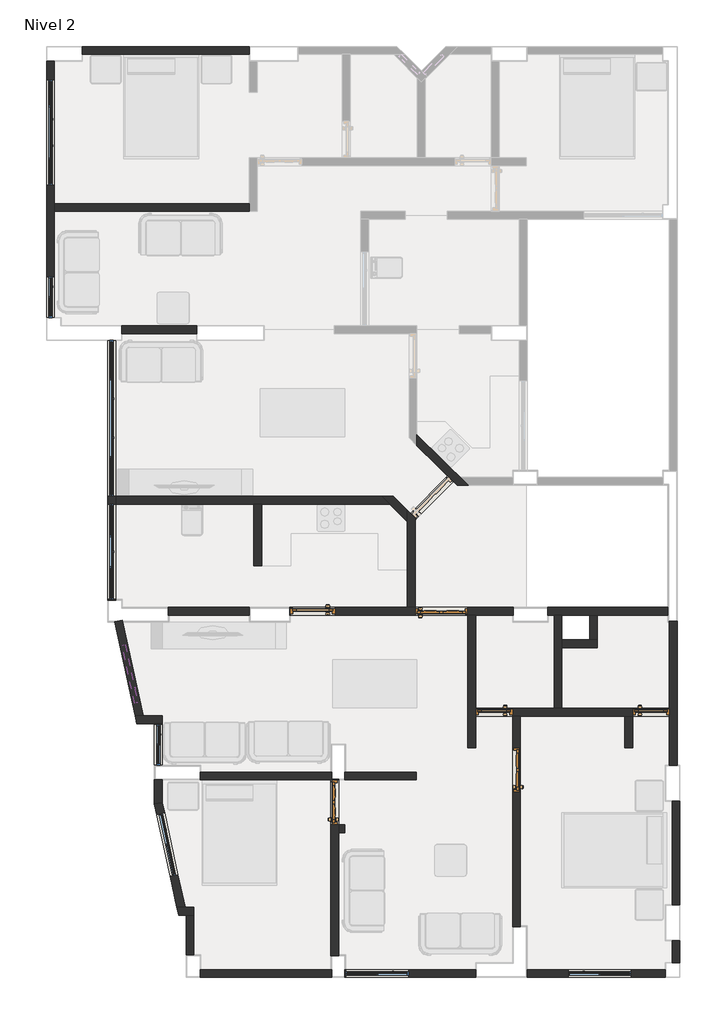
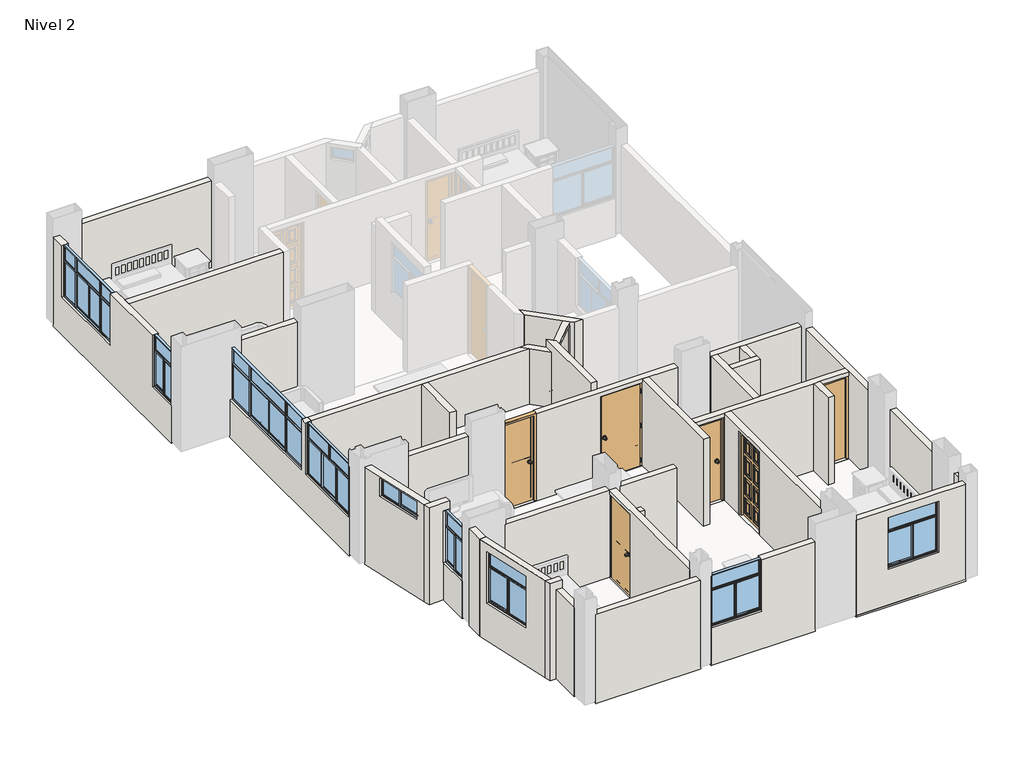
# One storey, part 1 of 3: 38 walls, 9 windows, 6 doors.
"""IFC4 building model written with IfcOpenShell, lengths in millimetres."""

from ifc_helpers import new_model, si_unit, frame, origin, place, context, project, spatial, polyline, outline, extrude, faceted_brep, transform, mapped, element, save
from components import door_81789954, door_be1cc8a4, door_cacd1893, door_2d542328, door_b74d320c, door_1edce65c, door_bb016787, door_609245de, door_bcd09a2d, puerta_interior_pi_0_85x2_10_m_9cadf999, puerta_interior_pi_0_85x2_10_m_c76ccc0d, puerta_interior_pi_0_85x2_10_m_f933acae, puerta_interior_pi_0_85x2_10_m_d21131e5, puerta_interior_pi_0_85x2_10_m_7d8cd98e, puerta_interior_pi_0_85x2_10_m_f147ff4f, puerta_interior_pi_0_85x2_10_m_2af04781, puerta_interior_pi_0_85x2_10_m_c524f691, puerta_interior_pi_1_00x2_10_m_4a7fa07f, puerta_interior_pi_1_00x2_10_m_31410703, puerta_interior_pi_1_00x2_10_m_59491bfe, puerta_interior_pi_1_00x2_10_m_50af7067, va_1_13x0_45_m_8709d312, vb_0_78x1_30_94a928da, vb_1_20x1_30_m_1dcd1d01, vb_1_20x1_30_m_50a12735, vb_1_81x1_30_m_b5e7ee37, vb_2_00x1_30_m_a2a52466, vb_2_96x1_30_m_0cf09963

model = new_model("IFC4")

# Units and contexts
model_context = context("Model", 3, world=origin())
ifc_project = project(units=[si_unit("LENGTHUNIT", "METRE", prefix="MILLI")], contexts=[model_context])

# Site, building, storey
site = spatial("IfcSite", under=ifc_project)
building = spatial("IfcBuilding", under=site)
storey = spatial("IfcBuildingStorey", under=building, Name="Nivel 2", Elevation=2800.0)

# Doors
placement = place(None, origin())
door_shape = door_81789954(model_context)
door_2_shape = door_be1cc8a4(model_context)
door_3_shape = door_cacd1893(model_context)
element("IfcDoor", 1, ObjectType="Puerta contraplacada : Puerta contraplacada 0.7x2.10 m", at=placement, inside=storey, context=model_context, shape_type="MappedRepresentation", body=[
    mapped(door_shape, transform((8815.0, 5025.0, 2800.0), x_axis=(-1.0, 0.0, 0.0), y_axis=(0.0, -1.0, 0.0), z_axis=(0.0, 0.0, 1.0))),
    mapped(door_2_shape, transform((8815.0, 5025.0, 2800.0), x_axis=(-1.0, 0.0, 0.0), y_axis=(0.0, -1.0, 0.0), z_axis=(0.0, 0.0, 1.0))),
    mapped(door_3_shape, transform((8815.0, 5025.0, 2800.0), x_axis=(-1.0, 0.0, 0.0), y_axis=(0.0, -1.0, 0.0), z_axis=(0.0, 0.0, 1.0))),
])
door_4_shape = door_2d542328(model_context)
door_5_shape = door_b74d320c(model_context)
door_6_shape = door_1edce65c(model_context)
element("IfcDoor", 2, ObjectType="Puerta contraplacada Vaiven : Puerta contraplacada 0.85x2.10 m", at=placement, inside=storey, context=model_context, shape_type="MappedRepresentation", body=[
    mapped(door_4_shape, transform((2390.0, 6940.0, 2800.0), x_axis=(1.0, 0.0, 0.0), y_axis=(0.0, 1.0, 0.0), z_axis=(0.0, 0.0, 1.0))),
    mapped(door_5_shape, transform((2390.0, 6940.0, 2800.0), x_axis=(1.0, 0.0, 0.0), y_axis=(0.0, 1.0, 0.0), z_axis=(0.0, 0.0, 1.0))),
    mapped(door_6_shape, transform((2390.0, 6940.0, 2800.0), x_axis=(1.0, 0.0, 0.0), y_axis=(0.0, 1.0, 0.0), z_axis=(0.0, 0.0, 1.0))),
])
door_7_shape = door_bb016787(model_context)
door_8_shape = door_609245de(model_context)
door_9_shape = door_bcd09a2d(model_context)
element("IfcDoor", 3, ObjectType="Puerta contraplacada : Puerta contraplacada 0.7x2.10 m", at=placement, inside=storey, context=model_context, shape_type="MappedRepresentation", body=[
    mapped(door_7_shape, transform((5835.0, 5025.0, 2800.0), x_axis=(1.0, 0.0, 0.0), y_axis=(0.0, 1.0, 0.0), z_axis=(0.0, 0.0, 1.0))),
    mapped(door_8_shape, transform((5835.0, 5025.0, 2800.0), x_axis=(1.0, 0.0, 0.0), y_axis=(0.0, 1.0, 0.0), z_axis=(0.0, 0.0, 1.0))),
    mapped(door_9_shape, transform((5835.0, 5025.0, 2800.0), x_axis=(1.0, 0.0, 0.0), y_axis=(0.0, 1.0, 0.0), z_axis=(0.0, 0.0, 1.0))),
])
puerta_interior_pi_0_85x2_10_m_shape = puerta_interior_pi_0_85x2_10_m_9cadf999(model_context)
puerta_interior_pi_0_85x2_10_m_2_shape = puerta_interior_pi_0_85x2_10_m_c76ccc0d(model_context)
puerta_interior_pi_0_85x2_10_m_3_shape = puerta_interior_pi_0_85x2_10_m_f933acae(model_context)
puerta_interior_pi_0_85x2_10_m_4_shape = puerta_interior_pi_0_85x2_10_m_d21131e5(model_context)
element("IfcDoor", 4, ObjectType="Puerta Interior : PI_0.85x2.10 m", at=placement, inside=storey, context=model_context, shape_type="MappedRepresentation", body=[
    mapped(puerta_interior_pi_0_85x2_10_m_shape, transform((2810.0, 3310.0, 2800.0), x_axis=(0.0, -1.0, 0.0), y_axis=(1.0, 0.0, 0.0), z_axis=(0.0, 0.0, 1.0))),
    mapped(puerta_interior_pi_0_85x2_10_m_2_shape, transform((2810.0, 3310.0, 2800.0), x_axis=(0.0, -1.0, 0.0), y_axis=(1.0, 0.0, 0.0), z_axis=(0.0, 0.0, 1.0))),
    mapped(puerta_interior_pi_0_85x2_10_m_3_shape, transform((2810.0, 3310.0, 2800.0), x_axis=(0.0, -1.0, 0.0), y_axis=(1.0, 0.0, 0.0), z_axis=(0.0, 0.0, 1.0))),
    mapped(puerta_interior_pi_0_85x2_10_m_4_shape, transform((2810.0, 3310.0, 2800.0), x_axis=(0.0, -1.0, 0.0), y_axis=(1.0, 0.0, 0.0), z_axis=(0.0, 0.0, 1.0))),
])
puerta_interior_pi_0_85x2_10_m_5_shape = puerta_interior_pi_0_85x2_10_m_7d8cd98e(model_context)
puerta_interior_pi_0_85x2_10_m_6_shape = puerta_interior_pi_0_85x2_10_m_f147ff4f(model_context)
puerta_interior_pi_0_85x2_10_m_7_shape = puerta_interior_pi_0_85x2_10_m_2af04781(model_context)
puerta_interior_pi_0_85x2_10_m_8_shape = puerta_interior_pi_0_85x2_10_m_c524f691(model_context)
element("IfcDoor", 5, ObjectType="Puerta Interior : PI_0.85x2.10 m", at=placement, inside=storey, context=model_context, shape_type="MappedRepresentation", body=[
    mapped(puerta_interior_pi_0_85x2_10_m_5_shape, transform((6260.0, 3924.9505997, 2800.0), x_axis=(0.0, -1.0, 0.0), y_axis=(1.0, 0.0, 0.0), z_axis=(0.0, 0.0, 1.0))),
    mapped(puerta_interior_pi_0_85x2_10_m_6_shape, transform((6260.0, 3924.9505997, 2800.0), x_axis=(0.0, -1.0, 0.0), y_axis=(1.0, 0.0, 0.0), z_axis=(0.0, 0.0, 1.0))),
    mapped(puerta_interior_pi_0_85x2_10_m_7_shape, transform((6260.0, 3924.9505997, 2800.0), x_axis=(0.0, -1.0, 0.0), y_axis=(1.0, 0.0, 0.0), z_axis=(0.0, 0.0, 1.0))),
    mapped(puerta_interior_pi_0_85x2_10_m_8_shape, transform((6260.0, 3924.9505997, 2800.0), x_axis=(0.0, -1.0, 0.0), y_axis=(1.0, 0.0, 0.0), z_axis=(0.0, 0.0, 1.0))),
])
puerta_interior_pi_1_00x2_10_m_shape = puerta_interior_pi_1_00x2_10_m_4a7fa07f(model_context)
puerta_interior_pi_1_00x2_10_m_2_shape = puerta_interior_pi_1_00x2_10_m_31410703(model_context)
puerta_interior_pi_1_00x2_10_m_3_shape = puerta_interior_pi_1_00x2_10_m_59491bfe(model_context)
puerta_interior_pi_1_00x2_10_m_4_shape = puerta_interior_pi_1_00x2_10_m_50af7067(model_context)
element("IfcDoor", 6, ObjectType="Puerta Interior : PI_1.00x2.10 m", at=placement, inside=storey, context=model_context, shape_type="MappedRepresentation", body=[
    mapped(puerta_interior_pi_1_00x2_10_m_shape, transform((4835.0, 6940.0, 2800.0), x_axis=(-1.0, 0.0, 0.0), y_axis=(0.0, -1.0, 0.0), z_axis=(0.0, 0.0, 1.0))),
    mapped(puerta_interior_pi_1_00x2_10_m_2_shape, transform((4835.0, 6940.0, 2800.0), x_axis=(-1.0, 0.0, 0.0), y_axis=(0.0, -1.0, 0.0), z_axis=(0.0, 0.0, 1.0))),
    mapped(puerta_interior_pi_1_00x2_10_m_3_shape, transform((4835.0, 6940.0, 2800.0), x_axis=(-1.0, 0.0, 0.0), y_axis=(0.0, -1.0, 0.0), z_axis=(0.0, 0.0, 1.0))),
    mapped(puerta_interior_pi_1_00x2_10_m_4_shape, transform((4835.0, 6940.0, 2800.0), x_axis=(-1.0, 0.0, 0.0), y_axis=(0.0, -1.0, 0.0), z_axis=(0.0, 0.0, 1.0))),
])

# Walls
element("IfcWall", 7, ObjectType="AMS_Muro Interior-Exterior, e=15 cm", at=placement, inside=storey, context=model_context, shape_type="Brep", body=[
    faceted_brep([(-1985.0, 17515.0, 2750.0), (1185.0, 17515.0, 2750.0), (1185.0, 17515.0, 5000.0), (-1985.0, 17515.0, 5000.0), (-1985.0, 17665.0, 2750.0), (-1985.0, 17665.0, 2800.0), (-1985.0, 17665.0, 5000.0), (1185.0, 17665.0, 5000.0), (1185.0, 17665.0, 2800.0), (1185.0, 17665.0, 2750.0)], [[[0, 1, 2, 3]], [[4, 5, 6, 7, 8, 9]], [[1, 0, 4, 9]], [[2, 1, 9, 8, 7]], [[3, 2, 7, 6]], [[0, 3, 6, 5, 4]]]),
])
element("IfcWall", 8, ObjectType="AMS_Muro Interior-Interior, e=15 cm", at=placement, inside=storey, context=model_context, shape_type="SweptSolid", body=[
    extrude(outline(polyline([(-2515.0, 14683.4801072), (1185.0, 14683.4801072), (1185.0, 14533.4801072), (-2515.0, 14533.4801072), (-2515.0, 14683.4801072)])), frame((0.0, 0.0, 2750.0), z_axis=(0.0, 0.0, 1.0), x_axis=(1.0, 0.0, 0.0)), (0.0, 0.0, 1.0), 2250.0),
])
element("IfcWall", 9, ObjectType="AMS_Muro Interior-Exterior, e=15 cm", at=placement, inside=storey, context=model_context, shape_type="Brep", body=[
    faceted_brep([(-2515.0, 12515.0, 2750.0), (-2515.0, 14533.4801072, 2750.0), (-2515.0, 14683.4801072, 2750.0), (-2515.0, 17385.0, 2750.0), (-2515.0, 17385.0, 5000.0), (-2515.0, 17035.0, 5000.0), (-2515.0, 17035.0, 3700.0), (-2515.0, 15035.0, 3700.0), (-2515.0, 15035.0, 5000.0), (-2515.0, 14683.4801072, 5000.0), (-2515.0, 14533.4801072, 5000.0), (-2515.0, 13295.0, 5000.0), (-2515.0, 13295.0, 3700.0), (-2515.0, 12515.0, 3700.0), (-2665.0, 17385.0, 2750.0), (-2665.0, 12515.0, 2750.0), (-2665.0, 12515.0, 2800.0), (-2665.0, 12515.0, 3700.0), (-2665.0, 13295.0, 3700.0), (-2665.0, 13295.0, 5000.0), (-2665.0, 15035.0, 5000.0), (-2665.0, 15035.0, 3700.0), (-2665.0, 17035.0, 3700.0), (-2665.0, 17035.0, 5000.0), (-2665.0, 17385.0, 5000.0), (-2665.0, 17385.0, 2800.0)], [[[0, 1, 2, 3, 4, 5, 6, 7, 8, 9, 10, 11, 12, 13]], [[14, 15, 16, 17, 18, 19, 20, 21, 22, 23, 24, 25]], [[3, 2, 1, 0, 15, 14]], [[4, 3, 14, 25, 24]], [[4, 24, 23, 5]], [[8, 20, 19, 11, 10, 9]], [[15, 0, 13, 17, 16]], [[7, 21, 20, 8]], [[21, 7, 6, 22]], [[22, 6, 5, 23]], [[18, 12, 11, 19]], [[12, 18, 17, 13]]]),
])
element("IfcWall", 10, ObjectType="AMS_Muro Interior-Interior, e=15 cm", at=placement, inside=storey, context=model_context, shape_type="Brep", body=[
    faceted_brep([(-1235.0, 12215.0, 2750.0), (185.0, 12215.0, 2750.0), (185.0, 12215.0, 5000.0), (-1235.0, 12215.0, 5000.0), (-1235.0, 12365.0, 2750.0), (-1235.0, 12365.0, 2800.0), (-1235.0, 12365.0, 5000.0), (185.0, 12365.0, 5000.0), (185.0, 12365.0, 2800.0), (185.0, 12365.0, 2750.0)], [[[0, 1, 2, 3]], [[4, 5, 6, 7, 8, 9]], [[1, 0, 4, 9]], [[2, 1, 9, 8, 7]], [[3, 2, 7, 6]], [[0, 3, 6, 5, 4]]]),
])
element("IfcWall", 11, ObjectType="AMS_Muro Interior-Interior, e=15 cm", at=placement, inside=storey, context=model_context, shape_type="Brep", body=[
    faceted_brep([(4370.0005808, 10085.8895972, 2750.0), (4953.7940571, 9510.3473507, 2750.0), (5060.6123419, 9405.038816, 2750.0), (5131.6552655, 9335.0, 2750.0), (5131.6552655, 9335.0, 5000.0), (5060.6123419, 9405.038816, 5000.0), (4953.7940571, 9510.3473507, 5000.0), (4370.0005808, 10085.8895972, 5000.0), (4370.0005808, 10296.5278486, 2750.0), (4370.0005808, 10296.5278486, 5000.0), (5193.1628539, 9485.0, 5000.0), (5345.3133207, 9335.0, 5000.0), (5345.3133207, 9335.0, 2750.0), (5193.1628539, 9485.0, 2750.0)], [[[0, 1, 2, 3, 4, 5, 6, 7]], [[8, 9, 10, 11, 12, 13]], [[3, 2, 1, 0, 8, 13, 12]], [[7, 6, 5, 4, 11, 10, 9]], [[0, 7, 9, 8]], [[4, 3, 12, 11]]]),
])
element("IfcWall", 12, ObjectType="AMS_Muro Interior-Interior, e=15 cm", at=placement, inside=storey, context=model_context, shape_type="Brep", body=[
    faceted_brep([(4335.0, 7015.0, 2750.0), (4335.0, 8670.8159799, 2750.0), (4335.0, 8705.2632339, 2750.0), (4335.0, 8705.2632339, 5000.0), (4335.0, 8705.2632339, 5200.0), (4335.0, 7015.0, 5200.0), (4335.0, 7015.0, 4900.0), (4335.0, 7015.0, 2800.0), (4185.0, 8855.2632339, 2750.0), (4185.0, 8643.1311996, 2750.0), (4185.0, 7015.0, 2750.0), (4185.0, 7015.0, 5200.0), (4185.0, 8855.2632339, 5200.0), (4185.0, 8855.2632339, 5000.0), (4246.0541754, 8794.2090586, 2750.0)], [[[0, 1, 2, 3, 4, 5, 6, 7]], [[8, 9, 10, 11, 12, 13]], [[2, 1, 0, 10, 9, 8, 14]], [[5, 4, 12, 11]], [[4, 3, 2, 14, 8, 13, 12]], [[0, 7, 6, 5, 11, 10]]]),
])
element("IfcWall", 13, ObjectType="AMS_Muro Interior-Interior, e=15 cm", at=placement, inside=storey, context=model_context, shape_type="Brep", body=[
    faceted_brep([(4185.0, 8855.2632339, 2750.0), (3915.2632339, 9125.0, 2750.0), (3915.2632339, 9125.0, 5000.0), (4185.0, 8855.2632339, 5000.0), (4185.0, 8643.1311996, 2750.0), (4185.0, 8643.1311996, 5000.0), (3853.1311996, 8975.0, 5000.0), (3703.1311996, 9125.0, 5000.0), (3703.1311996, 9125.0, 2750.0), (3853.1311996, 8975.0, 2750.0)], [[[0, 1, 2, 3]], [[4, 5, 6, 7, 8, 9]], [[1, 0, 4, 9, 8]], [[3, 2, 7, 6, 5]], [[0, 3, 5, 4]], [[2, 1, 8, 7]]]),
])
element("IfcWall", 14, ObjectType="AMS_Muro Interior-Interior, e=15 cm", at=placement, inside=storey, context=model_context, shape_type="Brep", body=[
    faceted_brep([(3703.1311996, 9125.0, 2750.0), (-1355.0, 9125.0, 2750.0), (-1355.0, 9125.0, 5000.0), (3703.1311996, 9125.0, 5000.0), (3853.1311996, 8975.0, 2750.0), (3853.1311996, 8975.0, 5000.0), (1425.0005808, 8975.0, 5000.0), (1275.0005808, 8975.0, 5000.0), (-1355.0, 8975.0, 5000.0), (-1355.0, 8975.0, 2750.0), (1275.0005808, 8975.0, 2750.0), (1425.0005808, 8975.0, 2750.0)], [[[0, 1, 2, 3]], [[4, 5, 6, 7, 8, 9, 10, 11]], [[1, 0, 4, 11, 10, 9]], [[3, 2, 8, 7, 6, 5]], [[0, 3, 5, 4]], [[2, 1, 9, 8]]]),
])
element("IfcWall", 15, ObjectType="AMS_Muro Interior-Exterior, e=15 cm", at=placement, inside=storey, context=model_context, shape_type="Brep", body=[
    faceted_brep([(-1355.0, 7150.0, 2750.0), (-1355.0, 7165.0, 2750.0), (-1355.0, 8975.0, 2750.0), (-1355.0, 9125.0, 2750.0), (-1355.0, 12085.0, 2750.0), (-1355.0, 12085.0, 3700.0), (-1355.0, 9125.0, 3700.0), (-1355.0, 9125.0, 5000.0), (-1355.0, 8975.0, 5000.0), (-1355.0, 8975.0, 3700.0), (-1355.0, 7165.0, 3700.0), (-1355.0, 7165.0, 5000.0), (-1355.0, 7150.0, 5000.0), (-1355.0, 7150.0, 2800.0), (-1505.0, 12085.0, 2750.0), (-1505.0, 7165.0, 2750.0), (-1505.0, 7150.0, 2750.0), (-1505.0, 7150.0, 2800.0), (-1505.0, 7150.0, 5000.0), (-1505.0, 7165.0, 5000.0), (-1505.0, 7165.0, 3700.0), (-1505.0, 8975.0, 3700.0), (-1505.0, 8975.0, 5000.0), (-1505.0, 9125.0, 5000.0), (-1505.0, 9125.0, 3700.0), (-1505.0, 12085.0, 3700.0), (-1490.0, 7150.0, 2750.0), (-1490.0, 7150.0, 5000.0)], [[[0, 1, 2, 3, 4, 5, 6, 7, 8, 9, 10, 11, 12, 13]], [[14, 15, 16, 17, 18, 19, 20, 21, 22, 23, 24, 25]], [[4, 3, 2, 1, 0, 26, 16, 15, 14]], [[4, 14, 25, 5]], [[18, 27, 12, 11, 19]], [[22, 8, 7, 23]], [[0, 13, 12, 27, 18, 17, 16, 26]], [[21, 9, 8, 22]], [[10, 20, 19, 11]], [[9, 21, 20, 10]], [[6, 24, 23, 7]], [[24, 6, 5, 25]]]),
])
element("IfcWall", 16, ObjectType="AMS_Muro Interior-Interior, e=15 cm", at=placement, inside=storey, context=model_context, shape_type="Brep", body=[
    faceted_brep([(4335.0, 8670.8159799, 2750.0), (5060.6123419, 9405.038816, 2750.0), (5060.6123419, 9405.038816, 5000.0), (4335.0, 8670.8159799, 5000.0), (4356.7811363, 8692.8555824, 2800.0), (4356.7811363, 8692.8555824, 4900.0), (5059.7049874, 9404.1206944, 4900.0), (5059.7049874, 9404.1206944, 2800.0), (4953.7940571, 9510.3473507, 2750.0), (4246.0541754, 8794.2090586, 2750.0), (4246.0541754, 8794.2090586, 5000.0), (4953.7940571, 9510.3473507, 5000.0), (4250.0913695, 8798.2941601, 4900.0), (4250.0913695, 8798.2941601, 2800.0), (4953.0152206, 9509.5592721, 2800.0), (4953.0152206, 9509.5592721, 4900.0), (4335.0, 8705.2632339, 2750.0), (4335.0, 8705.2632339, 5000.0)], [[[0, 1, 2, 3], [4, 5, 6, 7]], [[8, 9, 10, 11], [12, 13, 14, 15]], [[1, 0, 16, 9, 8]], [[3, 2, 11, 10, 17]], [[0, 3, 17, 16]], [[2, 1, 8, 11]], [[4, 13, 12, 5]], [[5, 12, 15, 6]], [[6, 15, 14, 7]], [[13, 4, 7, 14]], [[10, 9, 16, 17]]]),
])
element("IfcWall", 17, ObjectType="AMS_Muro Interior-Interior, e=15 cm", at=placement, inside=storey, context=model_context, shape_type="Brep", body=[
    faceted_brep([(9135.0, 7015.0, 2750.0), (6865.0, 7015.0, 2750.0), (6850.0, 7015.0, 2750.0), (6850.0, 7015.0, 2800.0), (6850.0, 7015.0, 5000.0), (6865.0, 7015.0, 5000.0), (9135.0, 7015.0, 5000.0), (9135.0, 6865.0, 2750.0), (9135.0, 6865.0, 5000.0), (7798.1159652, 6865.0, 5000.0), (7648.1159652, 6865.0, 5000.0), (7123.0216492, 6865.0, 5000.0), (6973.0216492, 6865.0, 5000.0), (6865.0, 6865.0, 5000.0), (6850.0, 6865.0, 5000.0), (6850.0, 6865.0, 2800.0), (6850.0, 6865.0, 2750.0), (6865.0, 6865.0, 2750.0), (6973.0216492, 6865.0, 2750.0), (7123.0216492, 6865.0, 2750.0), (7648.1159652, 6865.0, 2750.0), (7798.1159652, 6865.0, 2750.0), (6850.0, 7000.0, 2750.0), (6850.0, 7000.0, 5000.0)], [[[0, 1, 2, 3, 4, 5, 6]], [[7, 8, 9, 10, 11, 12, 13, 14, 15, 16, 17, 18, 19, 20, 21]], [[2, 1, 0, 7, 21, 20, 19, 18, 17, 16, 22]], [[4, 3, 2, 22, 16, 15, 14, 23]], [[6, 5, 4, 23, 14, 13, 12, 11, 10, 9, 8]], [[0, 6, 8, 7]]]),
])
element("IfcWall", 18, ObjectType="AMS_Muro Interior-Interior, e=15 cm", at=placement, inside=storey, context=model_context, shape_type="Brep", body=[
    faceted_brep([(5485.0, 4350.0, 2750.0), (5485.0, 4950.0, 2750.0), (5485.0, 5100.0, 2750.0), (5485.0, 6865.0, 2750.0), (5485.0, 6865.0, 5000.0), (5485.0, 5100.0, 5000.0), (5485.0, 4950.0, 5000.0), (5485.0, 4350.0, 5000.0), (5335.0, 4350.0, 2750.0), (5335.0, 4350.0, 5000.0), (5335.0, 6865.0, 5000.0), (5335.0, 6865.0, 2750.0)], [[[0, 1, 2, 3, 4, 5, 6, 7]], [[8, 9, 10, 11]], [[3, 2, 1, 0, 8, 11]], [[7, 6, 5, 4, 10, 9]], [[0, 7, 9, 8]], [[4, 3, 11, 10]]]),
])
element("IfcWall", 19, ObjectType="AMS_Muro Interior-Interior, e=15 cm", at=placement, inside=storey, context=model_context, shape_type="Brep", body=[
    faceted_brep([(1950.0, 6865.0, 2750.0), (3000.0, 6865.0, 2750.0), (3015.0, 6865.0, 2750.0), (5335.0, 6865.0, 2750.0), (5485.0, 6865.0, 2750.0), (6185.0, 6865.0, 2750.0), (6200.0, 6865.0, 2750.0), (6200.0, 6865.0, 2800.0), (6200.0, 6865.0, 5000.0), (6185.0, 6865.0, 5000.0), (5485.0, 6865.0, 5000.0), (5335.0, 6865.0, 5000.0), (2815.0, 6865.0, 5000.0), (2815.0, 6865.0, 2800.0), (1965.0, 6865.0, 2800.0), (1965.0, 6865.0, 5000.0), (1950.0, 6865.0, 5000.0), (1950.0, 6865.0, 2800.0), (4335.0, 6865.0, 2800.0), (4335.0, 6865.0, 4900.0), (5335.0, 6865.0, 4900.0), (5335.0, 6865.0, 2800.0), (6200.0, 7015.0, 2750.0), (6185.0, 7015.0, 2750.0), (4335.0, 7015.0, 2750.0), (4185.0, 7015.0, 2750.0), (3015.0, 7015.0, 2750.0), (1950.0, 7015.0, 2750.0), (1950.0, 7015.0, 2800.0), (1950.0, 7015.0, 5000.0), (1965.0, 7015.0, 5000.0), (1965.0, 7015.0, 2800.0), (2815.0, 7015.0, 2800.0), (2815.0, 7015.0, 5000.0), (6185.0, 7015.0, 5000.0), (6200.0, 7015.0, 5000.0), (6200.0, 7015.0, 2800.0), (4335.0, 7015.0, 2800.0), (5335.0, 7015.0, 2800.0), (5335.0, 7015.0, 4900.0), (4335.0, 7015.0, 4900.0), (1950.0, 7000.0, 2750.0), (6200.0, 7000.0, 2750.0), (6200.0, 7000.0, 5000.0), (1950.0, 7000.0, 5000.0)], [[[0, 1, 2, 3, 4, 5, 6, 7, 8, 9, 10, 11, 12, 13, 14, 15, 16, 17], [18, 19, 20, 21]], [[22, 23, 24, 25, 26, 27, 28, 29, 30, 31, 32, 33, 34, 35, 36], [37, 38, 39, 40]], [[6, 5, 4, 3, 2, 1, 0, 41, 27, 26, 25, 24, 23, 22, 42]], [[8, 7, 6, 42, 22, 36, 35, 43]], [[8, 43, 35, 34, 33, 12, 11, 10, 9]], [[29, 44, 16, 15, 30]], [[0, 17, 16, 44, 29, 28, 27, 41]], [[32, 13, 12, 33]], [[13, 32, 31, 14]], [[14, 31, 30, 15]], [[19, 18, 37, 40]], [[20, 19, 40, 39]], [[21, 20, 39, 38]], [[18, 21, 38, 37]]]),
])
element("IfcWall", 20, ObjectType="AMS_Muro Interior-Interior, e=15 cm", at=placement, inside=storey, context=model_context, shape_type="Brep", body=[
    faceted_brep([(6335.0, 950.0, 2750.0), (6335.0, 965.0, 2750.0), (6335.0, 4950.0, 2750.0), (6335.0, 4950.0, 5000.0), (6335.0, 965.0, 5000.0), (6335.0, 950.0, 5000.0), (6335.0, 950.0, 2800.0), (6335.0, 3499.9505997, 2800.0), (6335.0, 3499.9505997, 4900.0), (6335.0, 4349.9505997, 4900.0), (6335.0, 4349.9505997, 2800.0), (6185.0, 950.0, 2750.0), (6185.0, 950.0, 2800.0), (6185.0, 950.0, 5000.0), (6185.0, 965.0, 5000.0), (6185.0, 4950.0, 5000.0), (6185.0, 4950.0, 4900.0), (6185.0, 4950.0, 2800.0), (6185.0, 4950.0, 2750.0), (6185.0, 965.0, 2750.0), (6185.0, 3499.9505997, 2800.0), (6185.0, 4349.9505997, 2800.0), (6185.0, 4349.9505997, 4900.0), (6185.0, 3499.9505997, 4900.0), (6200.0, 950.0, 2750.0), (6200.0, 950.0, 5000.0)], [[[0, 1, 2, 3, 4, 5, 6], [7, 8, 9, 10]], [[11, 12, 13, 14, 15, 16, 17, 18, 19], [20, 21, 22, 23]], [[2, 1, 0, 24, 11, 19, 18]], [[5, 4, 3, 15, 14, 13, 25]], [[0, 6, 5, 25, 13, 12, 11, 24]], [[3, 2, 18, 17, 16, 15]], [[8, 7, 20, 23]], [[9, 8, 23, 22]], [[10, 9, 22, 21]], [[7, 10, 21, 20]]]),
])
element("IfcWall", 21, ObjectType="AMS_Muro Interior-Interior, e=15 cm", at=placement, inside=storey, context=model_context, shape_type="Brep", body=[
    faceted_brep([(9165.0, 4950.0, 2750.0), (9165.0, 4950.0, 2800.0), (8465.0, 4950.0, 2800.0), (8465.0, 4950.0, 4900.0), (9165.0, 4950.0, 4900.0), (9165.0, 4950.0, 5000.0), (8465.0, 4950.0, 5000.0), (8315.0, 4950.0, 5000.0), (6335.0, 4950.0, 5000.0), (6185.0, 4950.0, 5000.0), (5485.0, 4950.0, 5000.0), (5485.0, 4950.0, 4900.0), (6185.0, 4950.0, 4900.0), (6185.0, 4950.0, 2800.0), (5485.0, 4950.0, 2800.0), (5485.0, 4950.0, 2750.0), (6185.0, 4950.0, 2750.0), (6335.0, 4950.0, 2750.0), (8315.0, 4950.0, 2750.0), (8465.0, 4950.0, 2750.0), (8465.0, 5100.0, 2800.0), (9165.0, 5100.0, 2800.0), (9165.0, 5100.0, 2750.0), (7123.0216492, 5100.0, 2750.0), (6973.0216492, 5100.0, 2750.0), (5485.0, 5100.0, 2750.0), (5485.0, 5100.0, 2800.0), (6185.0, 5100.0, 2800.0), (6185.0, 5100.0, 4900.0), (5485.0, 5100.0, 4900.0), (5485.0, 5100.0, 5000.0), (6973.0216492, 5100.0, 5000.0), (7123.0216492, 5100.0, 5000.0), (9165.0, 5100.0, 5000.0), (9165.0, 5100.0, 4900.0), (8465.0, 5100.0, 4900.0)], [[[0, 1, 2, 3, 4, 5, 6, 7, 8, 9, 10, 11, 12, 13, 14, 15, 16, 17, 18, 19]], [[20, 21, 22, 23, 24, 25, 26, 27, 28, 29, 30, 31, 32, 33, 34, 35]], [[0, 19, 18, 17, 16, 15, 25, 24, 23, 22]], [[10, 9, 8, 7, 6, 5, 33, 32, 31, 30]], [[34, 33, 5, 4]], [[22, 21, 1, 0]], [[11, 10, 30, 29]], [[15, 14, 26, 25]], [[28, 27, 13, 12]], [[29, 28, 12, 11]], [[27, 26, 14, 13]], [[3, 2, 20, 35]], [[4, 3, 35, 34]], [[2, 1, 21, 20]]]),
])
element("IfcWall", 22, ObjectType="AMS_Muro Interior-Interior, e=15 cm", at=placement, inside=storey, context=model_context, shape_type="Brep", body=[
    faceted_brep([(7123.0216492, 5100.0, 2750.0), (7123.0216492, 6250.0, 2750.0), (7123.0216492, 6400.0, 2750.0), (7123.0216492, 6865.0, 2750.0), (7123.0216492, 6865.0, 5000.0), (7123.0216492, 6400.0, 5000.0), (7123.0216492, 6250.0, 5000.0), (7123.0216492, 5100.0, 5000.0), (6973.0216492, 5100.0, 2750.0), (6973.0216492, 5100.0, 5000.0), (6973.0216492, 6865.0, 5000.0), (6973.0216492, 6865.0, 2750.0)], [[[0, 1, 2, 3, 4, 5, 6, 7]], [[8, 9, 10, 11]], [[3, 2, 1, 0, 8, 11]], [[7, 6, 5, 4, 10, 9]], [[4, 3, 11, 10]], [[0, 7, 9, 8]]]),
])
element("IfcWall", 23, ObjectType="AMS_Muro Interior-Interior, e=15 cm", at=placement, inside=storey, context=model_context, shape_type="Brep", body=[
    faceted_brep([(7123.0216492, 6250.0, 2750.0), (7798.1159652, 6250.0, 2750.0), (7798.1159652, 6250.0, 5000.0), (7123.0216492, 6250.0, 5000.0), (7123.0216492, 6400.0, 2750.0), (7123.0216492, 6400.0, 5000.0), (7648.1159652, 6400.0, 5000.0), (7798.1159652, 6400.0, 5000.0), (7798.1159652, 6400.0, 2750.0), (7648.1159652, 6400.0, 2750.0)], [[[0, 1, 2, 3]], [[4, 5, 6, 7, 8, 9]], [[1, 0, 4, 9, 8]], [[3, 2, 7, 6, 5]], [[0, 3, 5, 4]], [[2, 1, 8, 7]]]),
])
element("IfcWall", 24, ObjectType="AMS_Muro Interior-Interior, e=15 cm", at=placement, inside=storey, context=model_context, shape_type="SweptSolid", body=[
    extrude(outline(polyline([(7798.1159652, 6865.0), (7798.1159652, 6400.0), (7648.1159652, 6400.0), (7648.1159652, 6865.0), (7798.1159652, 6865.0)])), frame((0.0, 0.0, 2750.0), z_axis=(0.0, 0.0, 1.0), x_axis=(1.0, 0.0, 0.0)), (0.0, 0.0, 1.0), 2250.0),
])
element("IfcWall", 25, ObjectType="AMS_Muro Interior-Exterior, e=15 cm", at=placement, inside=storey, context=model_context, shape_type="Brep", body=[
    faceted_brep([(9165.0, 6750.0, 2750.0), (9165.0, 6735.0, 2750.0), (9165.0, 5100.0, 2750.0), (9165.0, 4950.0, 2750.0), (9165.0, 4015.0, 2750.0), (9165.0, 4015.0, 5000.0), (9165.0, 4950.0, 5000.0), (9165.0, 5100.0, 5000.0), (9165.0, 6735.0, 5000.0), (9165.0, 6750.0, 5000.0), (9165.0, 6750.0, 2800.0), (9315.0, 6750.0, 2750.0), (9315.0, 6750.0, 2800.0), (9315.0, 6750.0, 5000.0), (9315.0, 6735.0, 5000.0), (9315.0, 4015.0, 5000.0), (9315.0, 4015.0, 2750.0), (9315.0, 6735.0, 2750.0), (9300.0, 6750.0, 2750.0), (9300.0, 6750.0, 5000.0)], [[[0, 1, 2, 3, 4, 5, 6, 7, 8, 9, 10]], [[11, 12, 13, 14, 15, 16, 17]], [[4, 3, 2, 1, 0, 18, 11, 17, 16]], [[5, 4, 16, 15]], [[9, 8, 7, 6, 5, 15, 14, 13, 19]], [[0, 10, 9, 19, 13, 12, 11, 18]]]),
])
element("IfcWall", 26, ObjectType="AMS_Muro Interior-Interior, e=15 cm", at=placement, inside=storey, context=model_context, shape_type="Brep", body=[
    faceted_brep([(1185.0, 7015.0, 2750.0), (-335.0, 7015.0, 2750.0), (-350.0, 7015.0, 2750.0), (-350.0, 7015.0, 2800.0), (-350.0, 7015.0, 5000.0), (-335.0, 7015.0, 5000.0), (1185.0, 7015.0, 5000.0), (1185.0, 7015.0, 2800.0), (1185.0, 6865.0, 2750.0), (1185.0, 6865.0, 5000.0), (-335.0, 6865.0, 5000.0), (-350.0, 6865.0, 5000.0), (-350.0, 6865.0, 2800.0), (-350.0, 6865.0, 2750.0), (-335.0, 6865.0, 2750.0), (-350.0, 7000.0, 2750.0), (-350.0, 7000.0, 5000.0)], [[[0, 1, 2, 3, 4, 5, 6, 7]], [[8, 9, 10, 11, 12, 13, 14]], [[2, 1, 0, 8, 14, 13, 15]], [[4, 3, 2, 15, 13, 12, 11, 16]], [[6, 5, 4, 16, 11, 10, 9]], [[0, 7, 6, 9, 8]]]),
])
element("IfcWall", 27, ObjectType="AMS_Muro Interior-Interior, e=15 cm", at=placement, inside=storey, context=model_context, shape_type="SweptSolid", body=[
    extrude(outline(polyline([(1275.0005808, 7800.0), (1275.0005808, 8975.0), (1425.0005808, 8975.0), (1425.0005808, 7800.0), (1275.0005808, 7800.0)])), frame((0.0, 0.0, 2750.0), z_axis=(0.0, 0.0, 1.0), x_axis=(1.0, 0.0, 0.0)), (0.0, 0.0, 1.0), 2250.0),
])
element("IfcWall", 28, ObjectType="AMS_Muro Interior-Interior, e=15 cm", at=placement, inside=storey, context=model_context, shape_type="Brep", body=[
    faceted_brep([(4352.1220375, 3885.0, 2750.0), (3015.0, 3885.0, 2750.0), (3000.0, 3885.0, 2750.0), (3000.0, 3885.0, 2800.0), (3000.0, 3885.0, 5000.0), (3015.0, 3885.0, 5000.0), (4352.1220375, 3885.0, 5000.0), (4352.1220375, 3735.0, 2750.0), (4352.1220375, 3735.0, 5000.0), (3015.0, 3735.0, 5000.0), (3000.0, 3735.0, 5000.0), (3000.0, 3735.0, 2800.0), (3000.0, 3735.0, 2750.0), (3015.0, 3735.0, 2750.0), (3000.0, 3750.0, 2750.0), (3000.0, 3750.0, 5000.0)], [[[0, 1, 2, 3, 4, 5, 6]], [[7, 8, 9, 10, 11, 12, 13]], [[2, 1, 0, 7, 13, 12, 14]], [[4, 3, 2, 14, 12, 11, 10, 15]], [[6, 5, 4, 15, 10, 9, 8]], [[0, 6, 8, 7]]]),
])
element("IfcWall", 29, ObjectType="AMS_Muro Interior-Interior, e=15 cm", at=placement, inside=storey, context=model_context, shape_type="Brep", body=[
    faceted_brep([(2750.0, 3885.0, 2750.0), (2735.0, 3885.0, 2750.0), (265.0, 3885.0, 2750.0), (250.0, 3885.0, 2750.0), (250.0, 3885.0, 2800.0), (250.0, 3885.0, 5000.0), (265.0, 3885.0, 5000.0), (2735.0, 3885.0, 5000.0), (2750.0, 3885.0, 5000.0), (2750.0, 3885.0, 2800.0), (2750.0, 3735.0, 2750.0), (2750.0, 3735.0, 5000.0), (2735.0, 3735.0, 5000.0), (265.0, 3735.0, 5000.0), (250.0, 3735.0, 5000.0), (250.0, 3735.0, 2800.0), (250.0, 3735.0, 2750.0), (265.0, 3735.0, 2750.0), (2735.0, 3735.0, 2750.0), (2750.0, 3750.0, 2750.0), (250.0, 3750.0, 2750.0), (250.0, 3750.0, 5000.0), (2750.0, 3750.0, 5000.0)], [[[0, 1, 2, 3, 4, 5, 6, 7, 8, 9]], [[10, 11, 12, 13, 14, 15, 16, 17, 18]], [[3, 2, 1, 0, 19, 10, 18, 17, 16, 20]], [[5, 4, 3, 20, 16, 15, 14, 21]], [[8, 7, 6, 5, 21, 14, 13, 12, 11, 22]], [[0, 9, 8, 22, 11, 10, 19]]]),
])
element("IfcWall", 30, ObjectType="AMS_Muro Interior-Interior, e=15 cm", at=placement, inside=storey, context=model_context, shape_type="Brep", body=[
    faceted_brep([(2885.0, 400.0, 2750.0), (2885.0, 415.0, 2750.0), (2885.0, 2735.0, 2750.0), (2885.0, 2885.0, 2750.0), (2885.0, 3735.0, 2750.0), (2885.0, 3750.0, 2750.0), (2885.0, 3750.0, 2800.0), (2885.0, 3750.0, 5000.0), (2885.0, 3735.0, 5000.0), (2885.0, 2885.0, 5000.0), (2885.0, 2735.0, 5000.0), (2885.0, 415.0, 5000.0), (2885.0, 400.0, 5000.0), (2885.0, 400.0, 2800.0), (2885.0, 2885.0, 2800.0), (2885.0, 2885.0, 4900.0), (2885.0, 3735.0, 4900.0), (2885.0, 3735.0, 2800.0), (2735.0, 400.0, 2750.0), (2735.0, 400.0, 2800.0), (2735.0, 400.0, 5000.0), (2735.0, 415.0, 5000.0), (2735.0, 3735.0, 5000.0), (2735.0, 3750.0, 5000.0), (2735.0, 3750.0, 2750.0), (2735.0, 3735.0, 2750.0), (2735.0, 415.0, 2750.0), (2735.0, 2885.0, 2800.0), (2735.0, 3735.0, 2800.0), (2735.0, 3735.0, 4900.0), (2735.0, 2885.0, 4900.0), (2750.0, 400.0, 2750.0), (2750.0, 3750.0, 2750.0), (2750.0, 3750.0, 5000.0), (2750.0, 400.0, 5000.0)], [[[0, 1, 2, 3, 4, 5, 6, 7, 8, 9, 10, 11, 12, 13], [14, 15, 16, 17]], [[18, 19, 20, 21, 22, 23, 24, 25, 26], [27, 28, 29, 30]], [[5, 4, 3, 2, 1, 0, 31, 18, 26, 25, 24, 32]], [[7, 6, 5, 32, 24, 23, 33]], [[12, 11, 10, 9, 8, 7, 33, 23, 22, 21, 20, 34]], [[0, 13, 12, 34, 20, 19, 18, 31]], [[15, 14, 27, 30]], [[16, 15, 30, 29]], [[17, 16, 29, 28]], [[14, 17, 28, 27]]]),
])
element("IfcWall", 31, ObjectType="AMS_Muro Interior-Interior, e=15 cm", at=placement, inside=storey, context=model_context, shape_type="Brep", body=[
    faceted_brep([(2885.0, 2735.0, 2750.0), (3000.0, 2735.0, 2750.0), (3000.0, 2735.0, 5000.0), (2885.0, 2735.0, 5000.0), (2885.0, 2885.0, 2750.0), (2885.0, 2885.0, 2800.0), (2885.0, 2885.0, 4900.0), (2885.0, 2885.0, 5000.0), (3000.0, 2885.0, 5000.0), (3000.0, 2885.0, 2750.0)], [[[0, 1, 2, 3]], [[4, 5, 6, 7, 8, 9]], [[1, 0, 4, 9]], [[2, 1, 9, 8]], [[3, 2, 8, 7]], [[0, 3, 7, 6, 5, 4]]]),
])
element("IfcWall", 32, ObjectType="AMS_Muro Interior-Exterior, e=15 cm", at=placement, inside=storey, context=model_context, shape_type="Brep", body=[
    faceted_brep([(2750.0, 135.0, 2750.0), (2735.0, 135.0, 2750.0), (265.0, 135.0, 2750.0), (250.0, 135.0, 2750.0), (250.0, 135.0, 2800.0), (250.0, 135.0, 5000.0), (265.0, 135.0, 5000.0), (2735.0, 135.0, 5000.0), (2750.0, 135.0, 5000.0), (2750.0, 135.0, 2800.0), (2750.0, -15.0, 2750.0), (2750.0, -15.0, 2800.0), (2750.0, -15.0, 5000.0), (2735.0, -15.0, 5000.0), (265.0, -15.0, 5000.0), (250.0, -15.0, 5000.0), (250.0, -15.0, 2800.0), (250.0, -15.0, 2750.0), (265.0, -15.0, 2750.0), (2735.0, -15.0, 2750.0), (2750.0, 0.0, 2750.0), (250.0, 0.0, 2750.0), (250.0, 0.0, 5000.0), (2750.0, 0.0, 5000.0)], [[[0, 1, 2, 3, 4, 5, 6, 7, 8, 9]], [[10, 11, 12, 13, 14, 15, 16, 17, 18, 19]], [[3, 2, 1, 0, 20, 10, 19, 18, 17, 21]], [[5, 4, 3, 21, 17, 16, 15, 22]], [[8, 7, 6, 5, 22, 15, 14, 13, 12, 23]], [[0, 9, 8, 23, 12, 11, 10, 20]]]),
])
element("IfcWall", 33, ObjectType="AMS_Muro Interior-Exterior, e=15 cm", at=placement, inside=storey, context=model_context, shape_type="Brep", body=[
    faceted_brep([(5485.0, 135.0, 2750.0), (3015.0, 135.0, 2750.0), (3000.0, 135.0, 2750.0), (3000.0, 135.0, 2800.0), (3000.0, 135.0, 5000.0), (3015.0, 135.0, 5000.0), (3015.0, 135.0, 3700.0), (4215.0, 135.0, 3700.0), (4215.0, 135.0, 5000.0), (5485.0, 135.0, 5000.0), (3000.0, -15.0, 2750.0), (3015.0, -15.0, 2750.0), (5485.0, -15.0, 2750.0), (5485.0, -15.0, 2800.0), (5485.0, -15.0, 5000.0), (4215.0, -15.0, 5000.0), (4215.0, -15.0, 3700.0), (3015.0, -15.0, 3700.0), (3015.0, -15.0, 5000.0), (3000.0, -15.0, 5000.0), (3000.0, -15.0, 2800.0), (3000.0, 0.0, 2750.0), (3000.0, 0.0, 5000.0)], [[[0, 1, 2, 3, 4, 5, 6, 7, 8, 9]], [[10, 11, 12, 13, 14, 15, 16, 17, 18, 19, 20]], [[2, 1, 0, 12, 11, 10, 21]], [[4, 3, 2, 21, 10, 20, 19, 22]], [[14, 9, 8, 15]], [[4, 22, 19, 18, 5]], [[0, 9, 14, 13, 12]], [[7, 16, 15, 8]], [[17, 6, 5, 18]], [[16, 7, 6, 17]]]),
])
element("IfcWall", 34, ObjectType="AMS_Muro Interior-Interior, e=15 cm", at=placement, inside=storey, context=model_context, shape_type="Brep", body=[
    faceted_brep([(8315.0, 4950.0, 2750.0), (8315.0, 4349.9856618, 2750.0), (8315.0, 4349.9856618, 5000.0), (8315.0, 4950.0, 5000.0), (8465.0, 4950.0, 2750.0), (8465.0, 4950.0, 2800.0), (8465.0, 4950.0, 4900.0), (8465.0, 4950.0, 5000.0), (8465.0, 4349.9856618, 5000.0), (8465.0, 4349.9856618, 2750.0)], [[[0, 1, 2, 3]], [[4, 5, 6, 7, 8, 9]], [[1, 0, 4, 9]], [[2, 1, 9, 8]], [[3, 2, 8, 7]], [[0, 3, 7, 6, 5, 4]]]),
])
element("IfcWall", 35, ObjectType="AMS_Muro Interior-Exterior, e=15 cm", at=placement, inside=storey, context=model_context, shape_type="Brep", body=[
    faceted_brep([(135.0, 415.0, 2750.0), (135.0, 1170.0, 2750.0), (135.0, 1170.0, 5000.0), (135.0, 415.0, 5000.0), (-15.0, 415.0, 2750.0), (-15.0, 415.0, 2800.0), (-15.0, 415.0, 5000.0), (-15.0, 1170.0, 5000.0), (-15.0, 1170.0, 2750.0)], [[[0, 1, 2, 3]], [[4, 5, 6, 7, 8]], [[1, 0, 4, 8]], [[3, 2, 7, 6]], [[0, 3, 6, 5, 4]], [[2, 1, 8, 7]]]),
])
element("IfcWall", 36, ObjectType="AMS_Muro Interior-Exterior, e=15 cm", at=placement, inside=storey, context=model_context, shape_type="Brep", body=[
    faceted_brep([(135.0, 1320.0, 2750.0), (-35.0804526, 1320.0, 2750.0), (-188.5653574, 1320.0, 2750.0), (-188.5653574, 1320.0, 5200.0), (-35.0804526, 1320.0, 5200.0), (135.0, 1320.0, 5200.0), (135.0, 1170.0, 2750.0), (135.0, 1170.0, 5000.0), (135.0, 1170.0, 5200.0), (-156.044349, 1170.0, 5200.0), (-156.044349, 1170.0, 2750.0), (-15.0, 1170.0, 2750.0)], [[[0, 1, 2, 3, 4, 5]], [[6, 7, 8, 9, 10, 11]], [[2, 1, 0, 6, 11, 10]], [[5, 4, 3, 9, 8]], [[0, 5, 8, 7, 6]], [[3, 2, 10, 9]]]),
])
element("IfcWall", 37, ObjectType="AMS_Muro Interior-Exterior, e=15 cm", at=placement, inside=storey, context=model_context, shape_type="Brep", body=[
    faceted_brep([(-35.0804526, 1320.0, 2750.0), (-465.0, 3302.9622535, 2750.0), (-465.0, 3302.9622535, 5200.0), (-35.0804526, 1320.0, 5200.0), (-423.1760822, 3110.0534854, 3700.0), (-168.9151818, 1937.2997199, 3700.0), (-168.9151818, 1937.2997199, 5000.0), (-423.1760822, 3110.0534854, 5000.0), (-188.5653574, 1320.0, 2750.0), (-188.5653574, 1320.0, 5200.0), (-615.0, 3286.888468, 5200.0), (-615.0, 3286.888468, 2750.0), (-569.7703029, 3078.2708729, 3700.0), (-569.7703029, 3078.2708729, 5000.0), (-315.5094025, 1905.5171074, 5000.0), (-315.5094025, 1905.5171074, 3700.0)], [[[0, 1, 2, 3], [4, 5, 6, 7]], [[8, 9, 10, 11], [12, 13, 14, 15]], [[1, 0, 8, 11]], [[3, 2, 10, 9]], [[0, 3, 9, 8]], [[2, 1, 11, 10]], [[13, 12, 4, 7]], [[14, 13, 7, 6]], [[15, 14, 6, 5]], [[12, 15, 5, 4]]]),
])
element("IfcWall", 38, ObjectType="AMS_Muro Interior-Exterior, e=15 cm", at=placement, inside=storey, context=model_context, shape_type="Brep", body=[
    faceted_brep([(-615.0, 3735.0, 2750.0), (-615.0, 3286.888468, 2750.0), (-615.0, 3286.888468, 5200.0), (-615.0, 3735.0, 5200.0), (-615.0, 3735.0, 2800.0), (-465.0, 3735.0, 2750.0), (-465.0, 3735.0, 5200.0), (-465.0, 3302.9622535, 5200.0), (-465.0, 3302.9622535, 2750.0)], [[[0, 1, 2, 3, 4]], [[5, 6, 7, 8]], [[1, 0, 5, 8]], [[3, 2, 7, 6]], [[0, 4, 3, 6, 5]], [[2, 1, 8, 7]]]),
])
element("IfcWall", 39, ObjectType="AMS_Muro Interior-Exterior, e=15 cm", at=placement, inside=storey, context=model_context, shape_type="Brep", body=[
    faceted_brep([(-465.0, 4015.0, 2750.0), (-465.0, 4800.7253635, 2750.0), (-465.0, 4800.7253635, 5000.0), (-465.0, 4795.0, 5000.0), (-465.0, 4795.0, 3700.0), (-465.0, 4015.0, 3700.0), (-615.0, 4800.7253635, 2750.0), (-615.0, 4015.0, 2750.0), (-615.0, 4015.0, 2800.0), (-615.0, 4015.0, 3700.0), (-615.0, 4795.0, 3700.0), (-615.0, 4795.0, 5000.0), (-615.0, 4800.7253635, 5000.0)], [[[0, 1, 2, 3, 4, 5]], [[6, 7, 8, 9, 10, 11, 12]], [[1, 0, 7, 6]], [[2, 12, 11, 3]], [[7, 0, 5, 9, 8]], [[2, 1, 6, 12]], [[4, 10, 9, 5]], [[10, 4, 3, 11]]]),
])
element("IfcWall", 40, ObjectType="AMS_Muro Interior-Exterior, e=15 cm", at=placement, inside=storey, context=model_context, shape_type="Brep", body=[
    faceted_brep([(-465.0, 4950.7253635, 2750.0), (-830.9414428, 4950.7253635, 2750.0), (-984.410509, 4950.7253635, 2750.0), (-984.410509, 4950.7253635, 5200.0), (-830.9414428, 4950.7253635, 5200.0), (-465.0, 4950.7253635, 5200.0), (-465.0, 4800.7253635, 2750.0), (-465.0, 4800.7253635, 5000.0), (-465.0, 4800.7253635, 5200.0), (-951.964334, 4800.7253635, 5200.0), (-951.964334, 4800.7253635, 2750.0), (-615.0, 4800.7253635, 2750.0)], [[[0, 1, 2, 3, 4, 5]], [[6, 7, 8, 9, 10, 11]], [[2, 1, 0, 6, 11, 10]], [[5, 4, 3, 9, 8]], [[3, 2, 10, 9]], [[0, 5, 8, 7, 6]]]),
])
element("IfcWall", 41, ObjectType="AMS_Muro Interior-Exterior, e=15 cm", at=placement, inside=storey, context=model_context, shape_type="Brep", body=[
    faceted_brep([(-830.9414428, 4950.7253635, 2750.0), (-1216.8940234, 6735.0, 2750.0), (-1220.1386409, 6750.0, 2750.0), (-1225.1285153, 6773.0683942, 2750.0), (-1225.1285153, 6773.0683942, 5200.0), (-1220.1386409, 6750.0, 5200.0), (-1216.8940234, 6735.0, 5200.0), (-830.9414428, 4950.7253635, 5200.0), (-887.7066431, 5213.1532165, 4700.0), (-887.7066431, 5213.1532165, 5150.0), (-1126.6093657, 6317.6103181, 5150.0), (-1126.6093657, 6317.6103181, 4700.0), (-984.410509, 4950.7253635, 2750.0), (-984.410509, 4950.7253635, 5200.0), (-1370.3630896, 6735.0, 5200.0), (-1371.7378651, 6741.3556434, 5200.0), (-1371.7378651, 6741.3556434, 2800.0), (-1371.7378651, 6741.3556434, 2750.0), (-1370.3630896, 6735.0, 2750.0), (-1034.3159929, 5181.4404657, 4700.0), (-1273.2187155, 6285.8975673, 4700.0), (-1273.2187155, 6285.8975673, 5150.0), (-1034.3159929, 5181.4404657, 5150.0), (-1331.7746495, 6750.0, 2750.0), (-1331.7746495, 6750.0, 5200.0)], [[[0, 1, 2, 3, 4, 5, 6, 7], [8, 9, 10, 11]], [[12, 13, 14, 15, 16, 17, 18], [19, 20, 21, 22]], [[3, 2, 1, 0, 12, 18, 17, 23]], [[4, 3, 23, 17, 16, 15, 24]], [[7, 6, 5, 4, 24, 15, 14, 13]], [[0, 7, 13, 12]], [[9, 8, 19, 22]], [[10, 9, 22, 21]], [[11, 10, 21, 20]], [[8, 11, 20, 19]]]),
])
element("IfcWall", 42, ObjectType="AMS_Muro Interior-Exterior, e=15 cm", at=placement, inside=storey, context=model_context, shape_type="Brep", body=[
    faceted_brep([(9365.0, 1365.0, 2750.0), (9365.0, 3335.0, 2750.0), (9365.0, 3335.0, 2800.0), (9365.0, 3335.0, 5000.0), (9365.0, 1365.0, 5000.0), (9365.0, 1365.0, 2800.0), (9215.0, 1365.0, 2750.0), (9215.0, 1365.0, 5000.0), (9215.0, 3335.0, 5000.0), (9215.0, 3335.0, 2750.0)], [[[0, 1, 2, 3, 4, 5]], [[6, 7, 8, 9]], [[1, 0, 6, 9]], [[3, 2, 1, 9, 8]], [[4, 3, 8, 7]], [[0, 5, 4, 7, 6]]]),
])
element("IfcWall", 43, ObjectType="AMS_Muro Interior-Exterior, e=15 cm", at=placement, inside=storey, context=model_context, shape_type="Brep", body=[
    faceted_brep([(9215.0, 685.0, 2750.0), (9215.0, 265.0, 2750.0), (9215.0, 265.0, 5000.0), (9215.0, 685.0, 5000.0), (9365.0, 685.0, 2750.0), (9365.0, 685.0, 2800.0), (9365.0, 685.0, 5000.0), (9365.0, 265.0, 5000.0), (9365.0, 265.0, 2800.0), (9365.0, 265.0, 2750.0)], [[[0, 1, 2, 3]], [[4, 5, 6, 7, 8, 9]], [[1, 0, 4, 9]], [[2, 1, 9, 8, 7]], [[3, 2, 7, 6]], [[0, 3, 6, 5, 4]]]),
])
element("IfcWall", 44, ObjectType="AMS_Muro Interior-Exterior, e=15 cm", at=placement, inside=storey, context=model_context, shape_type="Brep", body=[
    faceted_brep([(6465.0, -15.0, 2750.0), (9085.0, -15.0, 2750.0), (9085.0, -15.0, 2800.0), (9085.0, -15.0, 5200.0), (6465.0, -15.0, 5200.0), (6465.0, -15.0, 2800.0), (7240.0, -15.0, 3700.0), (7240.0, -15.0, 5000.0), (8440.0, -15.0, 5000.0), (8440.0, -15.0, 3700.0), (9085.0, 135.0, 2750.0), (6465.0, 135.0, 2750.0), (6465.0, 135.0, 5200.0), (9085.0, 135.0, 5200.0), (7240.0, 135.0, 5000.0), (7240.0, 135.0, 3700.0), (8440.0, 135.0, 3700.0), (8440.0, 135.0, 5000.0)], [[[0, 1, 2, 3, 4, 5], [6, 7, 8, 9]], [[10, 11, 12, 13], [14, 15, 16, 17]], [[1, 0, 11, 10]], [[3, 2, 1, 10, 13]], [[4, 3, 13, 12]], [[0, 5, 4, 12, 11]], [[6, 15, 14, 7]], [[8, 17, 16, 9]], [[15, 6, 9, 16]], [[17, 8, 7, 14]]]),
])

# Windows
va_1_13x0_45_m_shape = va_1_13x0_45_m_8709d312(model_context)
element("IfcWindow", 45, ObjectType="Ventana alta corrediza 2 cuerpos : VA 1.13x0.45 m", at=placement, inside=storey, context=model_context, shape_type="MappedRepresentation", body=[
    mapped(va_1_13x0_45_m_shape, transform((-1080.4626793, 5749.5253919, 3100.0), x_axis=(-0.21141833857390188, 0.9773956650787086, 0.0), y_axis=(-0.9773956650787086, -0.21141833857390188, 0.0), z_axis=(0.0, 0.0, 1.0))),
])
vb_0_78x1_30_shape = vb_0_78x1_30_94a928da(model_context)
element("IfcWindow", 46, ObjectType="Ventana baja corrediza 2 cuerpos : VB 0.78X1.30", at=placement, inside=storey, context=model_context, shape_type="MappedRepresentation", body=[
    mapped(vb_0_78x1_30_shape, transform((-540.0, 4405.0, 2800.0), x_axis=(0.0, -1.0, 0.0), y_axis=(1.0, 0.0, 0.0), z_axis=(0.0, 0.0, 1.0))),
])
element("IfcWindow", 47, ObjectType="Ventana baja corrediza 2 cuerpos : VB 0.95X1.30", at=placement, inside=storey, context=model_context, shape_type="MappedRepresentation", body=[
    mapped(vb_0_78x1_30_shape, transform((-2590.0, 12905.0, 2800.0), x_axis=(0.0, -1.0, 0.0), y_axis=(1.0, 0.0, 0.0), z_axis=(0.0, 0.0, 1.0))),
])
vb_1_20x1_30_m_shape = vb_1_20x1_30_m_1dcd1d01(model_context)
element("IfcWindow", 48, ObjectType="Ventana baja corrediza 2 cuerpos : VB 1.20X1.30 m", at=placement, inside=storey, context=model_context, shape_type="MappedRepresentation", body=[
    mapped(vb_1_20x1_30_m_shape, transform((3615.0, 60.0, 2800.0), x_axis=(-1.0, 0.0, 0.0), y_axis=(0.0, -1.0, 0.0), z_axis=(0.0, 0.0, 1.0))),
])
vb_1_20x1_30_m_2_shape = vb_1_20x1_30_m_50a12735(model_context)
element("IfcWindow", 49, ObjectType="Ventana baja corrediza 2 cuerpos : VB 1.20X1.30 m", at=placement, inside=storey, context=model_context, shape_type="MappedRepresentation", body=[
    mapped(vb_1_20x1_30_m_2_shape, transform((-369.3427424, 2507.7852964, 2800.0), x_axis=(0.21188408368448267, -0.9772948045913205, 0.0), y_axis=(0.9772948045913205, 0.21188408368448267, 0.0), z_axis=(0.0, 0.0, 1.0))),
])
element("IfcWindow", 50, ObjectType="Ventana baja corrediza 2 cuerpos : VB 1.20X1.30 m", at=placement, inside=storey, context=model_context, shape_type="MappedRepresentation", body=[
    mapped(vb_1_20x1_30_m_2_shape, transform((7840.0, 60.0, 2800.0), x_axis=(1.0, 0.0, 0.0), y_axis=(0.0, 1.0, 0.0), z_axis=(0.0, 0.0, 1.0))),
])
vb_1_81x1_30_m_shape = vb_1_81x1_30_m_b5e7ee37(model_context)
element("IfcWindow", 51, ObjectType="Ventana baja corrediza 3 cuerpos : VB 1.81x1.30 m", at=placement, inside=storey, context=model_context, shape_type="MappedRepresentation", body=[
    mapped(vb_1_81x1_30_m_shape, transform((-1430.0, 8070.0, 2800.0), x_axis=(0.0, -1.0, 0.0), y_axis=(1.0, 0.0, 0.0), z_axis=(0.0, 0.0, 1.0))),
])
vb_2_00x1_30_m_shape = vb_2_00x1_30_m_a2a52466(model_context)
element("IfcWindow", 52, ObjectType="Ventana baja corrediza 4 cuerpos : VB 2.00x1.30 m", at=placement, inside=storey, context=model_context, shape_type="MappedRepresentation", body=[
    mapped(vb_2_00x1_30_m_shape, transform((-2590.0, 16035.0, 2800.0), x_axis=(0.0, -1.0, 0.0), y_axis=(1.0, 0.0, 0.0), z_axis=(0.0, 0.0, 1.0))),
])
vb_2_96x1_30_m_shape = vb_2_96x1_30_m_0cf09963(model_context)
element("IfcWindow", 53, ObjectType="Ventana baja corrediza 4 cuerpos : VB 2.96x1.30 m", at=placement, inside=storey, context=model_context, shape_type="MappedRepresentation", body=[
    mapped(vb_2_96x1_30_m_shape, transform((-1430.0, 10605.0, 2800.0), x_axis=(0.0, 1.0, 0.0), y_axis=(-1.0, 0.0, 0.0), z_axis=(0.0, 0.0, 1.0))),
])

save(model, "model.ifc")
